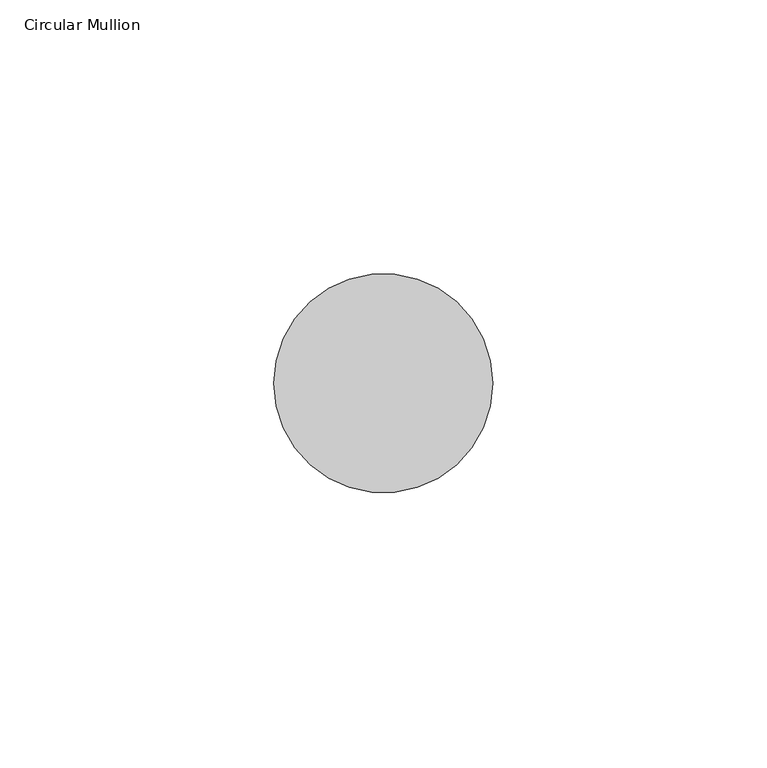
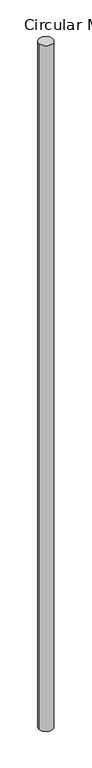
"""IFC4 building model written with IfcOpenShell, lengths in millimetres: member geometry, Circular Mullion : GRADIL 40mm."""

from ifc_helpers import new_model, si_unit, point, frame, origin, origin_2d, place, context, project, spatial, circle_curve, trimmed, segment, composite_curve, outline, extrude, source, transform, mapped, element, save


def circular_mullion_72bdbbff(model_context):
    return source(origin(), model_context, "Body", "SweptSolid", [
        extrude(outline(composite_curve([segment(trimmed(circle_curve(origin_2d(), 20.0), [point((20.0, 0.0))], [point((-20.0, 0.0))], False, "CARTESIAN"), True, "CONTINUOUS"), segment(trimmed(circle_curve(origin_2d(), 20.0), [point((-20.0, 0.0))], [point((20.0, 0.0))], False, "CARTESIAN"), True, "CONTINUOUS")], self_intersect=False)), frame((0.0, 0.0, -2080.8562677), z_axis=(0.0, 0.0, 1.0), x_axis=(1.0, 0.0, 0.0)), (0.0, 0.0, 1.0), 2080.8562677),
    ])


if __name__ == "__main__":
    model = new_model("IFC4")
    model_context = context("Model", 3, world=origin())
    ifc_project = project(units=[si_unit("LENGTHUNIT", "METRE", prefix="MILLI")], contexts=[model_context])
    site = spatial("IfcSite", under=ifc_project)
    building = spatial("IfcBuilding", under=site)
    placement = place(None, origin())
    circular_mullion_shape = circular_mullion_72bdbbff(model_context)
    element("IfcMember", 1, ObjectType="Circular Mullion : GRADIL 40mm", at=placement, inside=building, context=model_context, shape_type="MappedRepresentation", body=[
        mapped(circular_mullion_shape, transform((0.0, 0.0, 0.0), x_axis=(1.0, 0.0, 0.0), y_axis=(0.0, 1.0, 0.0), z_axis=(0.0, 0.0, 1.0))),
    ])
    save(model, "model.ifc")
